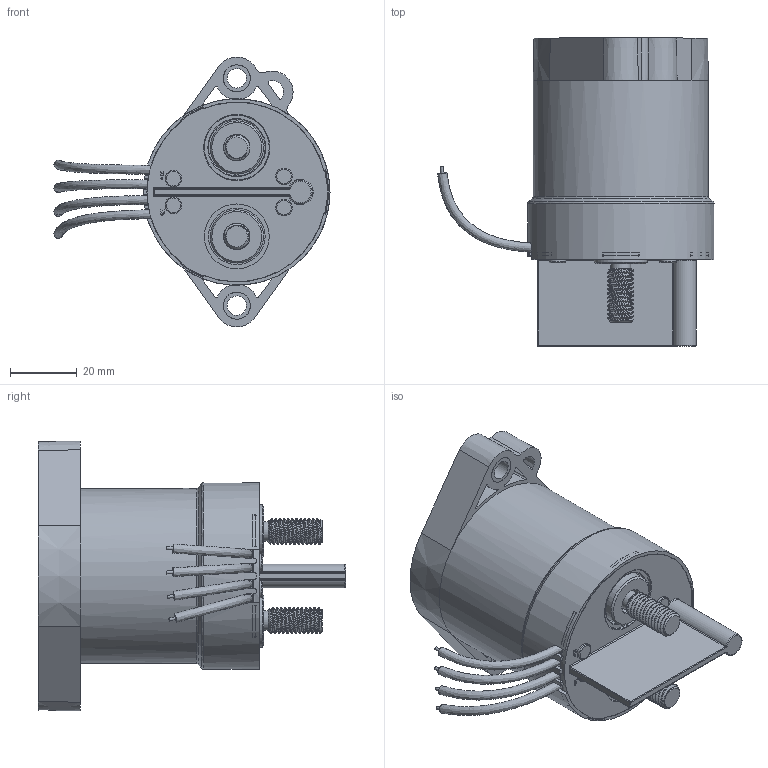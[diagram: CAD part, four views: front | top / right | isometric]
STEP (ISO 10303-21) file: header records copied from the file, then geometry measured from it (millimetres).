
FILE_DESCRIPTION (( 'STEP AP203' ), '1' );
FILE_NAME ('zsen軞蚾23.STEP', '2025-09-29T02:00:43', ( '' ), ( '' ), 'SwSTEP 2.0', 'SolidWorks 2024', '' );
FILE_SCHEMA (( 'CONFIG_CONTROL_DESIGN' ));
Length unit declared in the file: millimetre
Products named in the file (1): zsen总装23
Bounding box: 82.9 x 92.5 x 81.08 mm (x, y, z)
Volume: 55503.2 mm3; surface area: 71754.7 mm2
Topology: 20 solids, 20 shells, 916 faces, 2115 edges, 1314 vertices
Faces by surface type: plane 483, cylinder 210, torus 81, cone 70, bspline 40, sphere 32
Full cylindrical faces by diameter (mm): 0.83 x4, 0.9 x8, 2.2 x1, 3 x8, 3.5 x2, 5 x5, 5.842 x2, 5.944 x2, 6 x3, 7.9 x2, 8.103 x4, 11.3 x2, 12 x2, 13 x4, 14.4 x2, 16 x2, 17 x2, 18 x4, 18.4 x2, 19.5 x2, 20 x2, 45 x1, 46 x1, 46.355 x1, 47.63 x1, 48.133 x1, 48.73 x1, 49.8 x1, 50.5 x1, 50.8 x1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
Entity records: 31211 total; most frequent: CARTESIAN_POINT 11138, DIRECTION 4251, ORIENTED_EDGE 3800, EDGE_CURVE 1900, AXIS2_PLACEMENT_3D 1618, VERTEX_POINT 1278, EDGE_LOOP 1210, FACE_OUTER_BOUND 1024
